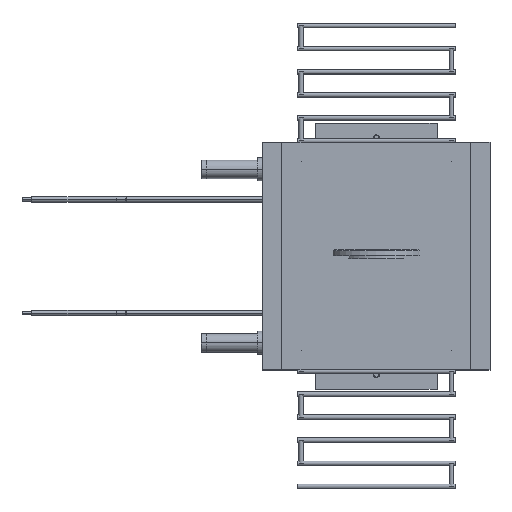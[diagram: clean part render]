
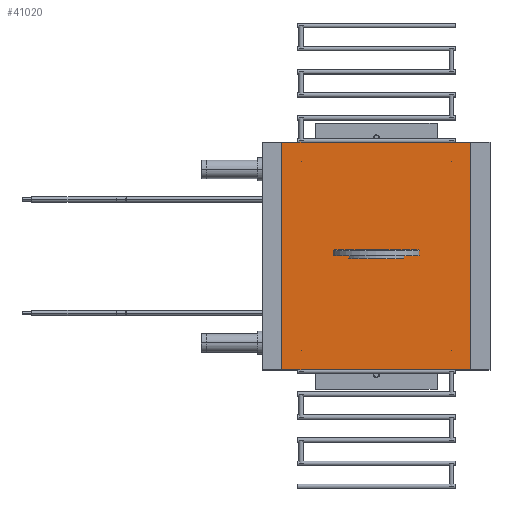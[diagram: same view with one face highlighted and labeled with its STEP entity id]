
A CAD part, top view. The second image highlights one B-rep face of the part: STEP entity #41020.
In plain terms, the highlighted planar face has unit normal (0, 0, 1).
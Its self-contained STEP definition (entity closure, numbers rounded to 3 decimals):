
#40706 = VERTEX_POINT('',#40707);
#40707 = CARTESIAN_POINT('',(-123.,-148.,402.));
#40714 = PLANE('',#40715);
#40715 = AXIS2_PLACEMENT_3D('',#40716,#40717,#40718);
#40716 = CARTESIAN_POINT('',(-123.,-148.,392.));
#40717 = DIRECTION('',(1.,0.,0.));
#40718 = DIRECTION('',(0.,0.,1.));
#40726 = PLANE('',#40727);
#40727 = AXIS2_PLACEMENT_3D('',#40728,#40729,#40730);
#40728 = CARTESIAN_POINT('',(-123.,-148.,392.));
#40729 = DIRECTION('',(0.,1.,0.));
#40730 = DIRECTION('',(0.,0.,1.));
#40767 = VERTEX_POINT('',#40768);
#40768 = CARTESIAN_POINT('',(-123.,148.,402.));
#40782 = PLANE('',#40783);
#40783 = AXIS2_PLACEMENT_3D('',#40784,#40785,#40786);
#40784 = CARTESIAN_POINT('',(-123.,148.,392.));
#40785 = DIRECTION('',(0.,1.,0.));
#40786 = DIRECTION('',(0.,0.,1.));
#40794 = EDGE_CURVE('',#40706,#40767,#40795,.T.);
#40795 = SURFACE_CURVE('',#40796,(#40800,#40807),.PCURVE_S1.);
#40796 = LINE('',#40797,#40798);
#40797 = CARTESIAN_POINT('',(-123.,-148.,402.));
#40798 = VECTOR('',#40799,1.);
#40799 = DIRECTION('',(0.,1.,0.));
#40800 = PCURVE('',#40714,#40801);
#40801 = DEFINITIONAL_REPRESENTATION('',(#40802),#40806);
#40802 = LINE('',#40803,#40804);
#40803 = CARTESIAN_POINT('',(10.,0.));
#40804 = VECTOR('',#40805,1.);
#40805 = DIRECTION('',(0.,-1.));
#40806 = ( GEOMETRIC_REPRESENTATION_CONTEXT(2) 
PARAMETRIC_REPRESENTATION_CONTEXT() REPRESENTATION_CONTEXT('2D SPACE',''
  ) );
#40807 = PCURVE('',#40808,#40813);
#40808 = PLANE('',#40809);
#40809 = AXIS2_PLACEMENT_3D('',#40810,#40811,#40812);
#40810 = CARTESIAN_POINT('',(-123.,-148.,402.));
#40811 = DIRECTION('',(0.,0.,1.));
#40812 = DIRECTION('',(1.,0.,0.));
#40813 = DEFINITIONAL_REPRESENTATION('',(#40814),#40818);
#40814 = LINE('',#40815,#40816);
#40815 = CARTESIAN_POINT('',(0.,0.));
#40816 = VECTOR('',#40817,1.);
#40817 = DIRECTION('',(0.,1.));
#40818 = ( GEOMETRIC_REPRESENTATION_CONTEXT(2) 
PARAMETRIC_REPRESENTATION_CONTEXT() REPRESENTATION_CONTEXT('2D SPACE',''
  ) );
#40826 = VERTEX_POINT('',#40827);
#40827 = CARTESIAN_POINT('',(123.,-148.,402.));
#40834 = PLANE('',#40835);
#40835 = AXIS2_PLACEMENT_3D('',#40836,#40837,#40838);
#40836 = CARTESIAN_POINT('',(123.,-148.,392.));
#40837 = DIRECTION('',(1.,0.,0.));
#40838 = DIRECTION('',(0.,0.,1.));
#40877 = VERTEX_POINT('',#40878);
#40878 = CARTESIAN_POINT('',(123.,148.,402.));
#40899 = EDGE_CURVE('',#40826,#40877,#40900,.T.);
#40900 = SURFACE_CURVE('',#40901,(#40905,#40912),.PCURVE_S1.);
#40901 = LINE('',#40902,#40903);
#40902 = CARTESIAN_POINT('',(123.,-148.,402.));
#40903 = VECTOR('',#40904,1.);
#40904 = DIRECTION('',(0.,1.,0.));
#40905 = PCURVE('',#40834,#40906);
#40906 = DEFINITIONAL_REPRESENTATION('',(#40907),#40911);
#40907 = LINE('',#40908,#40909);
#40908 = CARTESIAN_POINT('',(10.,0.));
#40909 = VECTOR('',#40910,1.);
#40910 = DIRECTION('',(0.,-1.));
#40911 = ( GEOMETRIC_REPRESENTATION_CONTEXT(2) 
PARAMETRIC_REPRESENTATION_CONTEXT() REPRESENTATION_CONTEXT('2D SPACE',''
  ) );
#40912 = PCURVE('',#40808,#40913);
#40913 = DEFINITIONAL_REPRESENTATION('',(#40914),#40918);
#40914 = LINE('',#40915,#40916);
#40915 = CARTESIAN_POINT('',(246.,0.));
#40916 = VECTOR('',#40917,1.);
#40917 = DIRECTION('',(0.,1.));
#40918 = ( GEOMETRIC_REPRESENTATION_CONTEXT(2) 
PARAMETRIC_REPRESENTATION_CONTEXT() REPRESENTATION_CONTEXT('2D SPACE',''
  ) );
#40945 = EDGE_CURVE('',#40706,#40826,#40946,.T.);
#40946 = SURFACE_CURVE('',#40947,(#40951,#40958),.PCURVE_S1.);
#40947 = LINE('',#40948,#40949);
#40948 = CARTESIAN_POINT('',(-123.,-148.,402.));
#40949 = VECTOR('',#40950,1.);
#40950 = DIRECTION('',(1.,0.,0.));
#40951 = PCURVE('',#40726,#40952);
#40952 = DEFINITIONAL_REPRESENTATION('',(#40953),#40957);
#40953 = LINE('',#40954,#40955);
#40954 = CARTESIAN_POINT('',(10.,0.));
#40955 = VECTOR('',#40956,1.);
#40956 = DIRECTION('',(0.,1.));
#40957 = ( GEOMETRIC_REPRESENTATION_CONTEXT(2) 
PARAMETRIC_REPRESENTATION_CONTEXT() REPRESENTATION_CONTEXT('2D SPACE',''
  ) );
#40958 = PCURVE('',#40808,#40959);
#40959 = DEFINITIONAL_REPRESENTATION('',(#40960),#40964);
#40960 = LINE('',#40961,#40962);
#40961 = CARTESIAN_POINT('',(0.,0.));
#40962 = VECTOR('',#40963,1.);
#40963 = DIRECTION('',(1.,0.));
#40964 = ( GEOMETRIC_REPRESENTATION_CONTEXT(2) 
PARAMETRIC_REPRESENTATION_CONTEXT() REPRESENTATION_CONTEXT('2D SPACE',''
  ) );
#40992 = EDGE_CURVE('',#40767,#40877,#40993,.T.);
#40993 = SURFACE_CURVE('',#40994,(#40998,#41005),.PCURVE_S1.);
#40994 = LINE('',#40995,#40996);
#40995 = CARTESIAN_POINT('',(-123.,148.,402.));
#40996 = VECTOR('',#40997,1.);
#40997 = DIRECTION('',(1.,0.,0.));
#40998 = PCURVE('',#40782,#40999);
#40999 = DEFINITIONAL_REPRESENTATION('',(#41000),#41004);
#41000 = LINE('',#41001,#41002);
#41001 = CARTESIAN_POINT('',(10.,0.));
#41002 = VECTOR('',#41003,1.);
#41003 = DIRECTION('',(0.,1.));
#41004 = ( GEOMETRIC_REPRESENTATION_CONTEXT(2) 
PARAMETRIC_REPRESENTATION_CONTEXT() REPRESENTATION_CONTEXT('2D SPACE',''
  ) );
#41005 = PCURVE('',#40808,#41006);
#41006 = DEFINITIONAL_REPRESENTATION('',(#41007),#41011);
#41007 = LINE('',#41008,#41009);
#41008 = CARTESIAN_POINT('',(0.,296.));
#41009 = VECTOR('',#41010,1.);
#41010 = DIRECTION('',(1.,0.));
#41011 = ( GEOMETRIC_REPRESENTATION_CONTEXT(2) 
PARAMETRIC_REPRESENTATION_CONTEXT() REPRESENTATION_CONTEXT('2D SPACE',''
  ) );
#41020 = ADVANCED_FACE('',(#41021),#40808,.T.);
#41021 = FACE_BOUND('',#41022,.T.);
#41022 = EDGE_LOOP('',(#41023,#41024,#41025,#41026));
#41023 = ORIENTED_EDGE('',*,*,#40794,.F.);
#41024 = ORIENTED_EDGE('',*,*,#40945,.T.);
#41025 = ORIENTED_EDGE('',*,*,#40899,.T.);
#41026 = ORIENTED_EDGE('',*,*,#40992,.F.);
